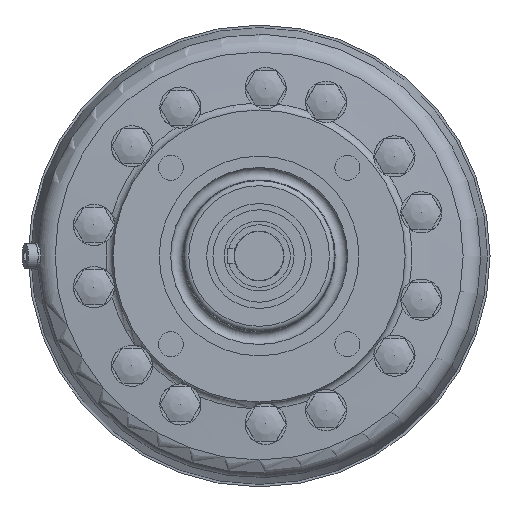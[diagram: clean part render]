
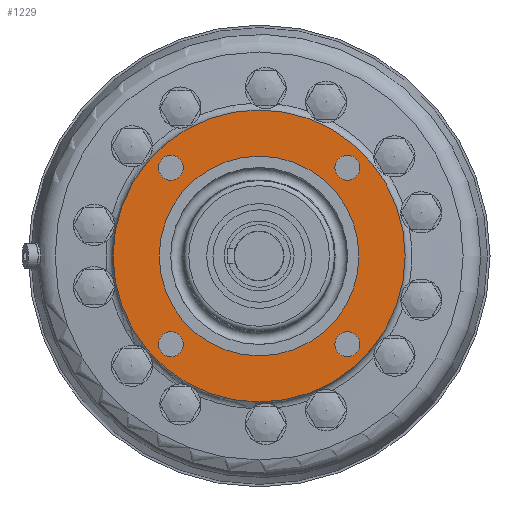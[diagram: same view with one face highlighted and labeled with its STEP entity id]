
A CAD part, left-side view. The second image highlights one B-rep face of the part: STEP entity #1229.
In plain terms, the highlighted planar face has unit normal (-1, 0, 0) as drawn and (0, 1, 0) by its records, which use the part's own axes.
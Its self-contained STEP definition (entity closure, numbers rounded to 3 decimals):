
#1229 = ADVANCED_FACE( '', ( #2451, #2452, #2453, #2454, #2455, #2456 ), #2457, .T. );
#2451 = FACE_BOUND( '', #3594, .T. );
#2452 = FACE_BOUND( '', #3595, .T. );
#2453 = FACE_BOUND( '', #3596, .T. );
#2454 = FACE_BOUND( '', #3597, .T. );
#2455 = FACE_BOUND( '', #3598, .T. );
#2456 = FACE_OUTER_BOUND( '', #3599, .T. );
#2457 = PLANE( '', #3600 );
#3594 = EDGE_LOOP( '', ( #5624 ) );
#3595 = EDGE_LOOP( '', ( #5625 ) );
#3596 = EDGE_LOOP( '', ( #5626 ) );
#3597 = EDGE_LOOP( '', ( #5627 ) );
#3598 = EDGE_LOOP( '', ( #5628 ) );
#3599 = EDGE_LOOP( '', ( #5629 ) );
#3600 = AXIS2_PLACEMENT_3D( '', #5630, #5631, #5632 );
#5624 = ORIENTED_EDGE( '', *, *, #6485, .T. );
#5625 = ORIENTED_EDGE( '', *, *, #6425, .F. );
#5626 = ORIENTED_EDGE( '', *, *, #6468, .F. );
#5627 = ORIENTED_EDGE( '', *, *, #6304, .F. );
#5628 = ORIENTED_EDGE( '', *, *, #6133, .F. );
#5629 = ORIENTED_EDGE( '', *, *, #6001, .F. );
#5630 = CARTESIAN_POINT( '', ( 58.5, 36., 0. ) );
#5631 = DIRECTION( '', ( 0., 1., 0. ) );
#5632 = DIRECTION( '', ( 0., 0., 1. ) );
#6001 = EDGE_CURVE( '', #6916, #6916, #6917, .T. );
#6133 = EDGE_CURVE( '', #7120, #7120, #7121, .T. );
#6304 = EDGE_CURVE( '', #7380, #7380, #7381, .T. );
#6425 = EDGE_CURVE( '', #7541, #7541, #7542, .T. );
#6468 = EDGE_CURVE( '', #7594, #7594, #7595, .T. );
#6485 = EDGE_CURVE( '', #7617, #7617, #7618, .T. );
#6916 = VERTEX_POINT( '', #8994 );
#6917 = CIRCLE( '', #8995, 58.5 );
#7120 = VERTEX_POINT( '', #9532 );
#7121 = CIRCLE( '', #9533, 5. );
#7380 = VERTEX_POINT( '', #11353 );
#7381 = CIRCLE( '', #11354, 5. );
#7541 = VERTEX_POINT( '', #12053 );
#7542 = CIRCLE( '', #12054, 5. );
#7594 = VERTEX_POINT( '', #12187 );
#7595 = CIRCLE( '', #12188, 5. );
#7617 = VERTEX_POINT( '', #12210 );
#7618 = CIRCLE( '', #12211, 40. );
#8994 = CARTESIAN_POINT( '', ( 0., 36., -58.5 ) );
#8995 = AXIS2_PLACEMENT_3D( '', #12640, #12641, #12642 );
#9532 = CARTESIAN_POINT( '', ( 40.355, 36., -35.355 ) );
#9533 = AXIS2_PLACEMENT_3D( '', #12810, #12811, #12812 );
#11353 = CARTESIAN_POINT( '', ( -30.355, 36., -35.355 ) );
#11354 = AXIS2_PLACEMENT_3D( '', #13027, #13028, #13029 );
#12053 = CARTESIAN_POINT( '', ( 40.355, 36., 35.355 ) );
#12054 = AXIS2_PLACEMENT_3D( '', #13151, #13152, #13153 );
#12187 = CARTESIAN_POINT( '', ( -30.355, 36., 35.355 ) );
#12188 = AXIS2_PLACEMENT_3D( '', #13183, #13184, #13185 );
#12210 = CARTESIAN_POINT( '', ( 0., 36., -40. ) );
#12211 = AXIS2_PLACEMENT_3D( '', #13201, #13202, #13203 );
#12640 = CARTESIAN_POINT( '', ( 0., 36., 0. ) );
#12641 = DIRECTION( '', ( 0., -1., 0. ) );
#12642 = DIRECTION( '', ( 0., 0., -1. ) );
#12810 = CARTESIAN_POINT( '', ( 35.355, 36., -35.355 ) );
#12811 = DIRECTION( '', ( 0., 1., 0. ) );
#12812 = DIRECTION( '', ( 1., 0., 0. ) );
#13027 = CARTESIAN_POINT( '', ( -35.355, 36., -35.355 ) );
#13028 = DIRECTION( '', ( 0., 1., 0. ) );
#13029 = DIRECTION( '', ( 1., 0., 0. ) );
#13151 = CARTESIAN_POINT( '', ( 35.355, 36., 35.355 ) );
#13152 = DIRECTION( '', ( 0., 1., 0. ) );
#13153 = DIRECTION( '', ( 1., 0., 0. ) );
#13183 = CARTESIAN_POINT( '', ( -35.355, 36., 35.355 ) );
#13184 = DIRECTION( '', ( 0., 1., 0. ) );
#13185 = DIRECTION( '', ( 1., 0., 0. ) );
#13201 = CARTESIAN_POINT( '', ( 0., 36., 0. ) );
#13202 = DIRECTION( '', ( 0., -1., 0. ) );
#13203 = DIRECTION( '', ( 0., 0., -1. ) );
